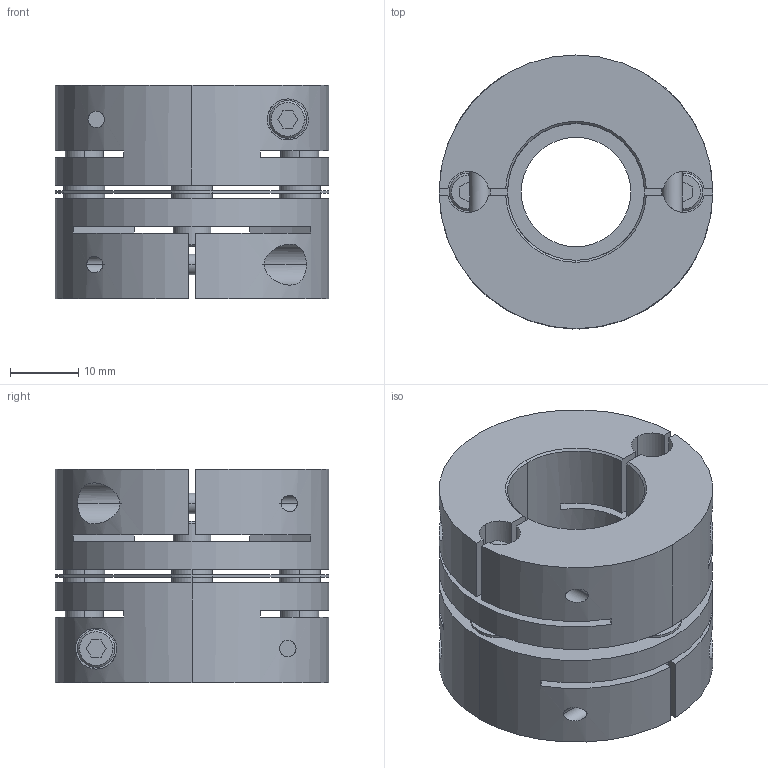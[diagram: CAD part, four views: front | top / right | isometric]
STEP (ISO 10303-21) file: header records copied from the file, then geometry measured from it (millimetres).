
FILE_DESCRIPTION((''),'2;1');
FILE_NAME('LAS-40C-20×20.stp','2011-08-11T09:10:09',(''),(''),'AutoCAD STEP 2000i','AutoCAD 2000i',', , ');
FILE_SCHEMA(('CONFIG_CONTROL_DESIGN'));
Length unit declared in the file: millimetre
Products named in the file (7): LAS-40C-15×15; 忣兜1; LA-4002-D15-1; LA-4002-D15; LA-4002-D10-1; LA-4002-D10; LAS40-ITA
Assembly tree (6 placements, depth 2):
  LAS-40C-15×15
    忣兜1
    LA-4002-D15-1
    LA-4002-D15
    LA-4002-D10-1
    LA-4002-D10
    LAS40-ITA
Bounding box: 40 x 40 x 31.2 mm (x, y, z)
Volume: 25292 mm3; surface area: 14511.4 mm2
Topology: 1 solids, 1 shells, 236 faces, 624 edges, 408 vertices
Faces by surface type: plane 112, cylinder 96, cone 28
Entity records: 8247 total; most frequent: CARTESIAN_POINT 2027, DIRECTION 1306, ORIENTED_EDGE 1248, EDGE_CURVE 624, AXIS2_PLACEMENT_3D 479, VERTEX_POINT 408, VECTOR 348, LINE 348
